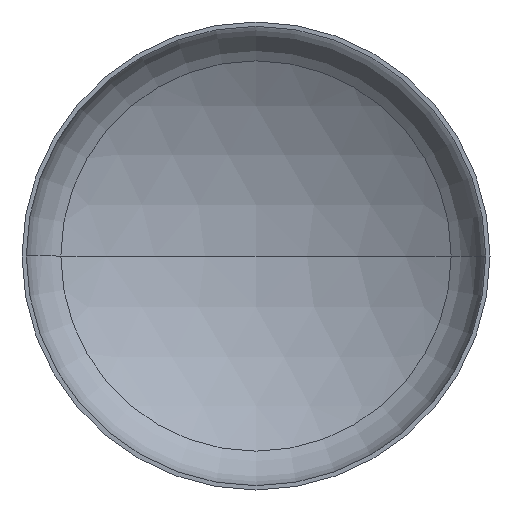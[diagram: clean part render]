
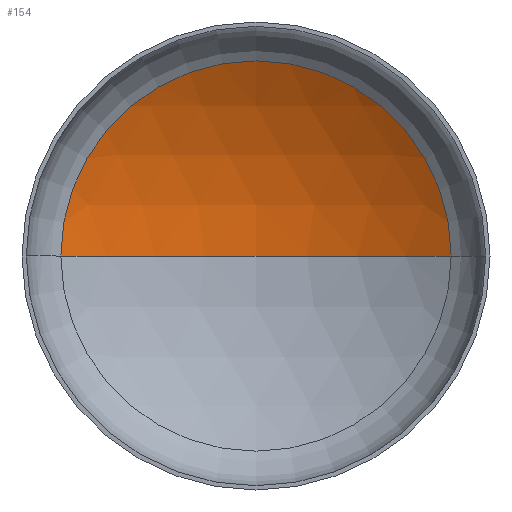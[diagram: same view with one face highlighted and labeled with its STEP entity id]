
A CAD part, front view. The second image highlights one B-rep face of the part: STEP entity #154.
In plain terms, the highlighted spherical face has radius 2880 mm.
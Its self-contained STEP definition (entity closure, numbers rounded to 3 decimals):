
#2 = AXIS2_PLACEMENT_3D ( 'NONE', #234, #321, #145 ) ;
#13 = DIRECTION ( 'NONE',  ( -1., 0., 0. ) ) ;
#14 = AXIS2_PLACEMENT_3D ( 'NONE', #45, #26, #13 ) ;
#17 = AXIS2_PLACEMENT_3D ( 'NONE', #262, #288, #165 ) ;
#21 = AXIS2_PLACEMENT_3D ( 'NONE', #173, #292, #113 ) ;
#26 = DIRECTION ( 'NONE',  ( 0., 0., -1. ) ) ;
#45 = CARTESIAN_POINT ( 'NONE',  ( 0., -1884.107, 0. ) ) ;
#51 = VERTEX_POINT ( 'NONE', #195 ) ;
#61 = VERTEX_POINT ( 'NONE', #129 ) ;
#97 = EDGE_CURVE ( 'NONE', #51, #61, #245, .T. ) ;
#105 = EDGE_LOOP ( 'NONE', ( #241, #287, #172 ) ) ;
#113 = DIRECTION ( 'NONE',  ( 1., 0., 0. ) ) ;
#116 = EDGE_CURVE ( 'NONE', #207, #51, #387, .T. ) ;
#129 = CARTESIAN_POINT ( 'NONE',  ( -1501.316, 573.626, 0. ) ) ;
#145 = DIRECTION ( 'NONE',  ( 1., 0., 0. ) ) ;
#154 = ADVANCED_FACE ( 'NONE', ( #238 ), #166, .F. ) ;
#165 = DIRECTION ( 'NONE',  ( -1., 0., 0. ) ) ;
#166 = SPHERICAL_SURFACE ( 'NONE', #14, 2880. ) ;
#169 = CARTESIAN_POINT ( 'NONE',  ( 0., 995.893, 0. ) ) ;
#172 = ORIENTED_EDGE ( 'NONE', *, *, #97, .T. ) ;
#173 = CARTESIAN_POINT ( 'NONE',  ( 0., 573.626, 0. ) ) ;
#195 = CARTESIAN_POINT ( 'NONE',  ( 1501.316, 573.626, 0. ) ) ;
#207 = VERTEX_POINT ( 'NONE', #169 ) ;
#212 = CIRCLE ( 'NONE', #2, 2880. ) ;
#234 = CARTESIAN_POINT ( 'NONE',  ( 0., -1884.107, 0. ) ) ;
#238 = FACE_OUTER_BOUND ( 'NONE', #105, .T. ) ;
#241 = ORIENTED_EDGE ( 'NONE', *, *, #316, .F. ) ;
#245 = CIRCLE ( 'NONE', #21, 1501.316 ) ;
#262 = CARTESIAN_POINT ( 'NONE',  ( 0., -1884.107, 0. ) ) ;
#287 = ORIENTED_EDGE ( 'NONE', *, *, #116, .T. ) ;
#288 = DIRECTION ( 'NONE',  ( 0., 0., -1. ) ) ;
#292 = DIRECTION ( 'NONE',  ( 0., -1., 0. ) ) ;
#316 = EDGE_CURVE ( 'NONE', #207, #61, #212, .T. ) ;
#321 = DIRECTION ( 'NONE',  ( 0., 0., 1. ) ) ;
#387 = CIRCLE ( 'NONE', #17, 2880. ) ;
